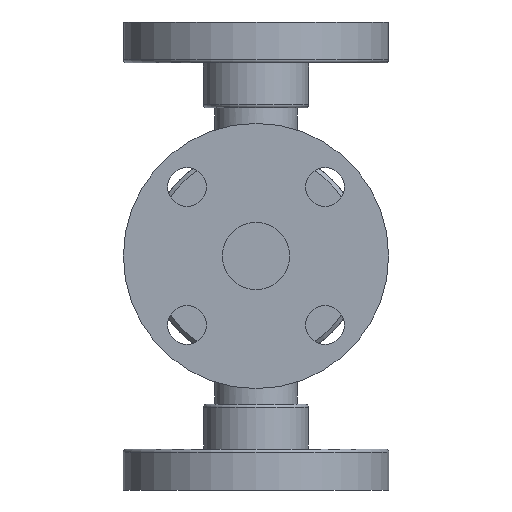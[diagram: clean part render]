
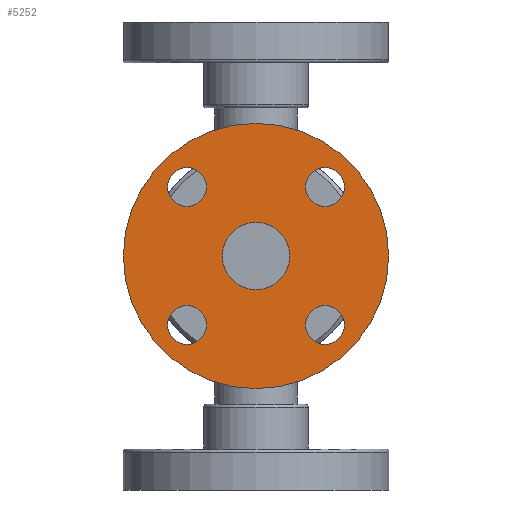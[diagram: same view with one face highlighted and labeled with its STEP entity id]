
A CAD part, front view. The second image highlights one B-rep face of the part: STEP entity #5252.
In plain terms, the highlighted planar face has unit normal (0, -1, 0).
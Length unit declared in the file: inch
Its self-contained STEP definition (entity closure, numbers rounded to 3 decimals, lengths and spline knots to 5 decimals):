
#107 = CARTESIAN_POINT ( 'NONE',  ( 0., -2.5, -2.125 ) ) ;
#128 = DIRECTION ( 'NONE',  ( 0., 1., 0. ) ) ;
#138 = CIRCLE ( 'NONE', #1730, 0.5375 ) ;
#245 = VERTEX_POINT ( 'NONE', #3050 ) ;
#396 = ORIENTED_EDGE ( 'NONE', *, *, #4095, .T. ) ;
#427 = DIRECTION ( 'NONE',  ( 0., 1., 0. ) ) ;
#435 = EDGE_LOOP ( 'NONE', ( #396, #2482 ) ) ;
#459 = CARTESIAN_POINT ( 'NONE',  ( 1.10485, -2.5, -1.10485 ) ) ;
#479 = VERTEX_POINT ( 'NONE', #5091 ) ;
#568 = CARTESIAN_POINT ( 'NONE',  ( 0., -2.5, 0. ) ) ;
#589 = CARTESIAN_POINT ( 'NONE',  ( -1.10485, -2.5, 1.10485 ) ) ;
#651 = VERTEX_POINT ( 'NONE', #6325 ) ;
#913 = DIRECTION ( 'NONE',  ( 0., 1., 0. ) ) ;
#967 = EDGE_LOOP ( 'NONE', ( #4171, #2173 ) ) ;
#1000 = DIRECTION ( 'NONE',  ( 0., 0., -1. ) ) ;
#1025 = VERTEX_POINT ( 'NONE', #1212 ) ;
#1026 = AXIS2_PLACEMENT_3D ( 'NONE', #4204, #1379, #4677 ) ;
#1083 = DIRECTION ( 'NONE',  ( 0., 1., 0. ) ) ;
#1104 = DIRECTION ( 'NONE',  ( 0., 0., 1. ) ) ;
#1126 = CARTESIAN_POINT ( 'NONE',  ( -1.10485, -2.5, 1.41735 ) ) ;
#1132 = DIRECTION ( 'NONE',  ( 0., 0., 1. ) ) ;
#1158 = DIRECTION ( 'NONE',  ( 0., 1., 0. ) ) ;
#1212 = CARTESIAN_POINT ( 'NONE',  ( 1.10485, -2.5, -0.79235 ) ) ;
#1324 = VERTEX_POINT ( 'NONE', #3348 ) ;
#1368 = CIRCLE ( 'NONE', #1685, 2.125 ) ;
#1379 = DIRECTION ( 'NONE',  ( 0., 1., 0. ) ) ;
#1421 = AXIS2_PLACEMENT_3D ( 'NONE', #3358, #427, #3832 ) ;
#1529 = CIRCLE ( 'NONE', #1674, 0.3125 ) ;
#1563 = CARTESIAN_POINT ( 'NONE',  ( -1.10485, -2.5, -0.79235 ) ) ;
#1580 = EDGE_CURVE ( 'NONE', #1324, #4286, #138, .T. ) ;
#1594 = AXIS2_PLACEMENT_3D ( 'NONE', #2236, #5557, #2687 ) ;
#1613 = EDGE_CURVE ( 'NONE', #1856, #1875, #1368, .T. ) ;
#1625 = EDGE_CURVE ( 'NONE', #1025, #479, #1529, .T. ) ;
#1626 = AXIS2_PLACEMENT_3D ( 'NONE', #3993, #1158, #4471 ) ;
#1634 = EDGE_CURVE ( 'NONE', #4741, #245, #2474, .T. ) ;
#1635 = AXIS2_PLACEMENT_3D ( 'NONE', #4939, #2104, #5423 ) ;
#1646 = EDGE_CURVE ( 'NONE', #1800, #2636, #5018, .T. ) ;
#1647 = AXIS2_PLACEMENT_3D ( 'NONE', #589, #3975, #1132 ) ;
#1656 = EDGE_CURVE ( 'NONE', #1732, #651, #3588, .T. ) ;
#1674 = AXIS2_PLACEMENT_3D ( 'NONE', #2545, #5900, #3023 ) ;
#1685 = AXIS2_PLACEMENT_3D ( 'NONE', #568, #3947, #1104 ) ;
#1690 = CIRCLE ( 'NONE', #2524, 2.125 ) ;
#1730 = AXIS2_PLACEMENT_3D ( 'NONE', #3925, #1083, #4407 ) ;
#1732 = VERTEX_POINT ( 'NONE', #1563 ) ;
#1800 = VERTEX_POINT ( 'NONE', #5413 ) ;
#1851 = ORIENTED_EDGE ( 'NONE', *, *, #4209, .F. ) ;
#1856 = VERTEX_POINT ( 'NONE', #107 ) ;
#1875 = VERTEX_POINT ( 'NONE', #4508 ) ;
#2104 = DIRECTION ( 'NONE',  ( 0., 1., 0. ) ) ;
#2173 = ORIENTED_EDGE ( 'NONE', *, *, #1580, .T. ) ;
#2194 = ORIENTED_EDGE ( 'NONE', *, *, #1634, .T. ) ;
#2236 = CARTESIAN_POINT ( 'NONE',  ( -1.10485, -2.5, -1.10485 ) ) ;
#2320 = DIRECTION ( 'NONE',  ( 0., 1., 0. ) ) ;
#2417 = CARTESIAN_POINT ( 'NONE',  ( 1.10485, -2.5, 0.79235 ) ) ;
#2474 = CIRCLE ( 'NONE', #1647, 0.3125 ) ;
#2482 = ORIENTED_EDGE ( 'NONE', *, *, #1646, .T. ) ;
#2524 = AXIS2_PLACEMENT_3D ( 'NONE', #5172, #2320, #5652 ) ;
#2534 = ORIENTED_EDGE ( 'NONE', *, *, #3892, .T. ) ;
#2545 = CARTESIAN_POINT ( 'NONE',  ( 1.10485, -2.5, -1.10485 ) ) ;
#2585 = EDGE_LOOP ( 'NONE', ( #3717, #2194 ) ) ;
#2636 = VERTEX_POINT ( 'NONE', #2417 ) ;
#2687 = DIRECTION ( 'NONE',  ( -1., 0., 0. ) ) ;
#2737 = ORIENTED_EDGE ( 'NONE', *, *, #4186, .T. ) ;
#2772 = FACE_BOUND ( 'NONE', #3106, .T. ) ;
#2794 = ORIENTED_EDGE ( 'NONE', *, *, #1613, .F. ) ;
#2887 = CIRCLE ( 'NONE', #1594, 0.3125 ) ;
#2983 = CIRCLE ( 'NONE', #5360, 0.3125 ) ;
#3023 = DIRECTION ( 'NONE',  ( 0., 0., -1. ) ) ;
#3050 = CARTESIAN_POINT ( 'NONE',  ( -1.10485, -2.5, 0.79235 ) ) ;
#3095 = CARTESIAN_POINT ( 'NONE',  ( 1.10485, -2.5, 1.10485 ) ) ;
#3106 = EDGE_LOOP ( 'NONE', ( #2534, #5712 ) ) ;
#3348 = CARTESIAN_POINT ( 'NONE',  ( 0., -2.5, 0.5375 ) ) ;
#3358 = CARTESIAN_POINT ( 'NONE',  ( -1.10485, -2.5, 1.10485 ) ) ;
#3538 = EDGE_LOOP ( 'NONE', ( #2794, #1851 ) ) ;
#3563 = DIRECTION ( 'NONE',  ( 1., 0., 0. ) ) ;
#3588 = CIRCLE ( 'NONE', #1626, 0.3125 ) ;
#3604 = FACE_BOUND ( 'NONE', #4376, .T. ) ;
#3717 = ORIENTED_EDGE ( 'NONE', *, *, #3851, .T. ) ;
#3733 = FACE_BOUND ( 'NONE', #2585, .T. ) ;
#3777 = CARTESIAN_POINT ( 'NONE',  ( 0., -2.5, 0. ) ) ;
#3832 = DIRECTION ( 'NONE',  ( 0., 0., 1. ) ) ;
#3846 = DIRECTION ( 'NONE',  ( 0., 1., 0. ) ) ;
#3851 = EDGE_CURVE ( 'NONE', #245, #4741, #5677, .T. ) ;
#3892 = EDGE_CURVE ( 'NONE', #479, #1025, #2983, .T. ) ;
#3925 = CARTESIAN_POINT ( 'NONE',  ( 0., -2.5, 0. ) ) ;
#3947 = DIRECTION ( 'NONE',  ( 0., 1., 0. ) ) ;
#3975 = DIRECTION ( 'NONE',  ( 0., 1., 0. ) ) ;
#3993 = CARTESIAN_POINT ( 'NONE',  ( -1.10485, -2.5, -1.10485 ) ) ;
#4095 = EDGE_CURVE ( 'NONE', #2636, #1800, #4762, .T. ) ;
#4171 = ORIENTED_EDGE ( 'NONE', *, *, #4269, .T. ) ;
#4186 = EDGE_CURVE ( 'NONE', #651, #1732, #2887, .T. ) ;
#4204 = CARTESIAN_POINT ( 'NONE',  ( 0., -2.5, 0. ) ) ;
#4209 = EDGE_CURVE ( 'NONE', #1875, #1856, #1690, .T. ) ;
#4269 = EDGE_CURVE ( 'NONE', #4286, #1324, #5287, .T. ) ;
#4271 = DIRECTION ( 'NONE',  ( 0., 0., 1. ) ) ;
#4286 = VERTEX_POINT ( 'NONE', #6158 ) ;
#4376 = EDGE_LOOP ( 'NONE', ( #2737, #4888 ) ) ;
#4407 = DIRECTION ( 'NONE',  ( 0., 0., 1. ) ) ;
#4471 = DIRECTION ( 'NONE',  ( -1., 0., 0. ) ) ;
#4508 = CARTESIAN_POINT ( 'NONE',  ( 0., -2.5, 2.125 ) ) ;
#4677 = DIRECTION ( 'NONE',  ( 0., 0., 1. ) ) ;
#4741 = VERTEX_POINT ( 'NONE', #1126 ) ;
#4762 = CIRCLE ( 'NONE', #6181, 0.3125 ) ;
#4872 = FACE_BOUND ( 'NONE', #435, .T. ) ;
#4888 = ORIENTED_EDGE ( 'NONE', *, *, #1656, .T. ) ;
#4939 = CARTESIAN_POINT ( 'NONE',  ( 1.10485, -2.5, 1.10485 ) ) ;
#5018 = CIRCLE ( 'NONE', #1635, 0.3125 ) ;
#5091 = CARTESIAN_POINT ( 'NONE',  ( 1.10485, -2.5, -1.41735 ) ) ;
#5172 = CARTESIAN_POINT ( 'NONE',  ( 0., -2.5, 0. ) ) ;
#5252 = ADVANCED_FACE ( 'NONE', ( #2772, #3733, #6326, #6165, #4872, #3604 ), #5708, .F. ) ;
#5287 = CIRCLE ( 'NONE', #1026, 0.5375 ) ;
#5360 = AXIS2_PLACEMENT_3D ( 'NONE', #459, #3846, #1000 ) ;
#5413 = CARTESIAN_POINT ( 'NONE',  ( 1.10485, -2.5, 1.41735 ) ) ;
#5423 = DIRECTION ( 'NONE',  ( 1., 0., 0. ) ) ;
#5557 = DIRECTION ( 'NONE',  ( 0., 1., 0. ) ) ;
#5652 = DIRECTION ( 'NONE',  ( 0., 0., 1. ) ) ;
#5677 = CIRCLE ( 'NONE', #1421, 0.3125 ) ;
#5708 = PLANE ( 'NONE',  #5722 ) ;
#5712 = ORIENTED_EDGE ( 'NONE', *, *, #1625, .T. ) ;
#5722 = AXIS2_PLACEMENT_3D ( 'NONE', #3777, #913, #4271 ) ;
#5900 = DIRECTION ( 'NONE',  ( 0., 1., 0. ) ) ;
#6158 = CARTESIAN_POINT ( 'NONE',  ( 0., -2.5, -0.5375 ) ) ;
#6165 = FACE_BOUND ( 'NONE', #967, .T. ) ;
#6181 = AXIS2_PLACEMENT_3D ( 'NONE', #3095, #128, #3563 ) ;
#6325 = CARTESIAN_POINT ( 'NONE',  ( -1.10485, -2.5, -1.41735 ) ) ;
#6326 = FACE_OUTER_BOUND ( 'NONE', #3538, .T. ) ;
